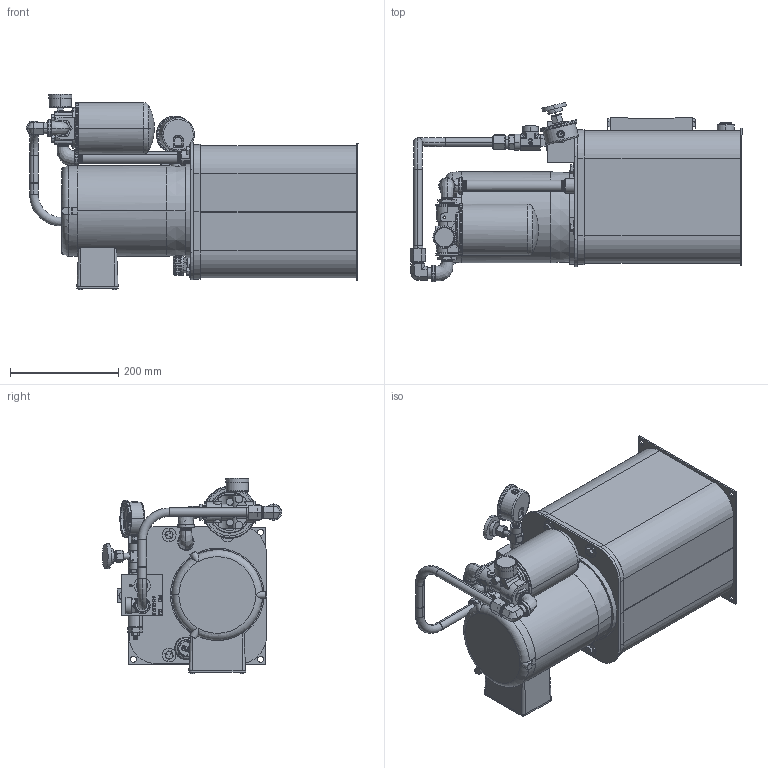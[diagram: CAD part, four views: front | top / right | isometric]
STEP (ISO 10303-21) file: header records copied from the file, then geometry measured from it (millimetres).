
FILE_DESCRIPTION (( 'STEP AP214' ), '1' );
FILE_NAME ('T3V-10-X-NN-F1-034.STEP', '2021-10-26T14:18:54', ( '' ), ( '' ), 'SwSTEP 2.0', 'SolidWorks 2020', '' );
FILE_SCHEMA (( 'AUTOMOTIVE_DESIGN' ));
Length unit declared in the file: inch
Products named in the file (1): T3V-10-X-NN-F1-034
Bounding box: 613.86 x 331.66 x 361.83 mm (x, y, z)
Surface area: 969822.1 mm2 (no closed solid volume)
Topology: 0 solids, 103 shells, 1159 faces, 5193 edges, 4080 vertices
Faces by surface type: plane 440, cone 317, cylinder 249, torus 72, bspline 71, sphere 10
Entity records: 108263 total; most frequent: CARTESIAN_POINT 54079, ORIENTED_EDGE 7537, DIRECTION 7172, EDGE_CURVE 5192, VERTEX_POINT 4080, VECTOR 2634, LINE 2634, AXIS2_PLACEMENT_3D 2269
